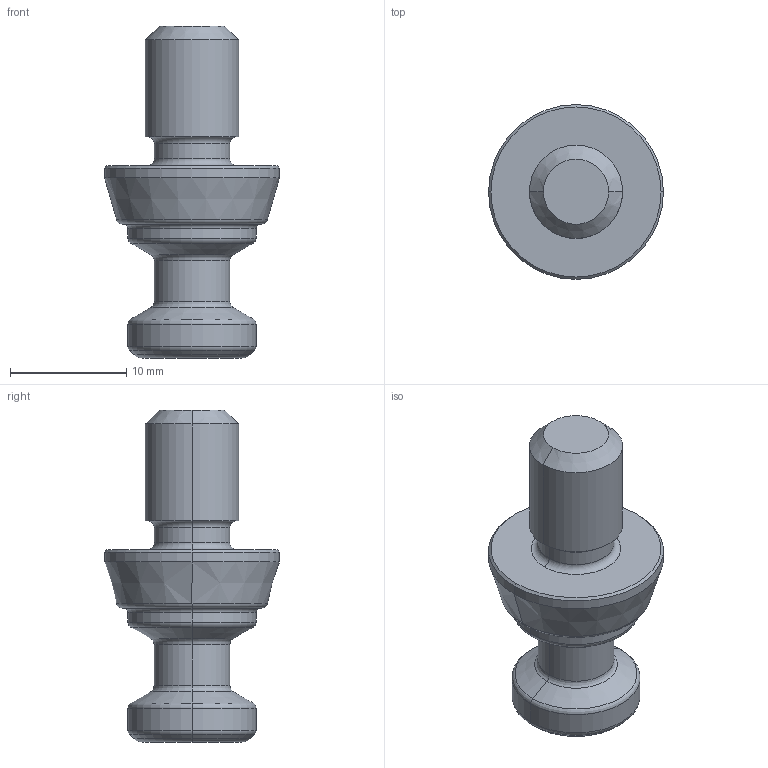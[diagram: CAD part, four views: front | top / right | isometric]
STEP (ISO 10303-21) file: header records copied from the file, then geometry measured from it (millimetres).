
FILE_DESCRIPTION (( 'STEP AP203' ), '1' );
FILE_NAME ('cp156-08001.STEP', '2021-10-25T23:36:17', ( '' ), ( '' ), 'SwSTEP 2.0', 'SolidWorks 2020', '' );
FILE_SCHEMA (( 'CONFIG_CONTROL_DESIGN' ));
Length unit declared in the file: millimetre
Products named in the file (1): cp156-08001
Bounding box: 15 x 15 x 28.5 mm (x, y, z)
Volume: 2032.2 mm3; surface area: 1215.5 mm2
Topology: 1 solids, 1 shells, 67 faces, 140 edges, 77 vertices
Faces by surface type: torus 20, plane 17, cone 16, cylinder 14
Entity records: 1855 total; most frequent: DIRECTION 348, CARTESIAN_POINT 323, ORIENTED_EDGE 276, AXIS2_PLACEMENT_3D 150, EDGE_CURVE 138, CIRCLE 82, VERTEX_POINT 77, EDGE_LOOP 71
